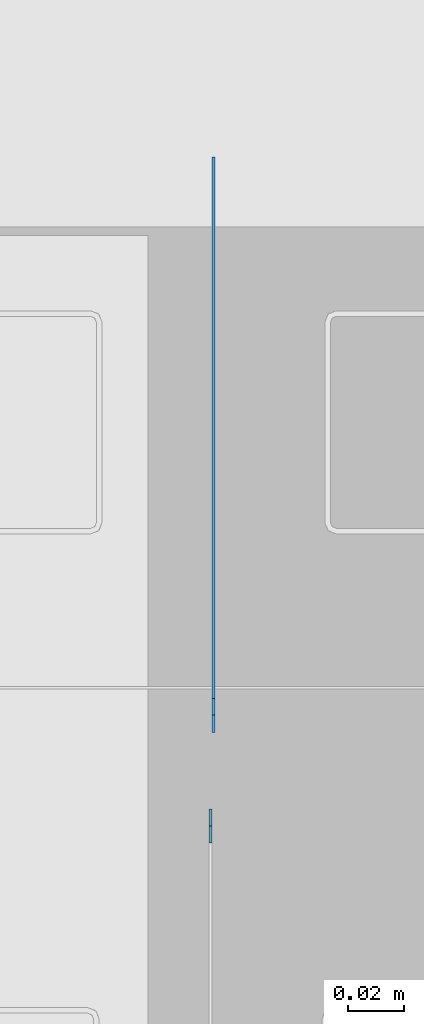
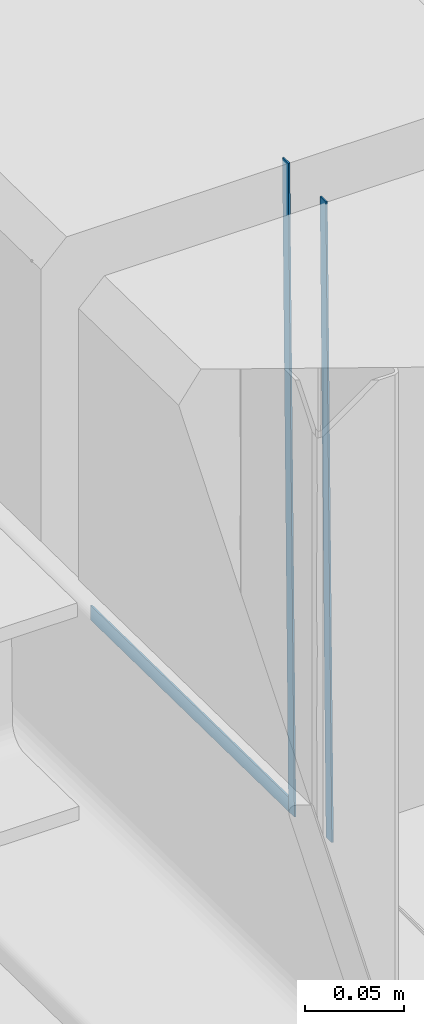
# One storey, part 27 of 186: 3 beams.
"""IFC4X3_ADD2 building model written with IfcOpenShell, lengths in millimetres."""

from ifc_helpers import new_model, si_unit, direction, frame, frame_2d, origin_with_axes, place, context, subcontext, project, spatial, rectangle, extrude, material, element, save


model = new_model("IFC4X3_ADD2")

# Units and contexts
model_context = context("Model", 3, precision=1e-05, world=origin_with_axes(), true_north=direction((0.0, 1.0)))
body_context = subcontext(model_context, "Body", "Model", "MODEL_VIEW")
ifc_project = project(units=[si_unit("LENGTHUNIT", "METRE", prefix="MILLI"), si_unit("AREAUNIT", "SQUARE_METRE"), si_unit("VOLUMEUNIT", "CUBIC_METRE"), si_unit("PLANEANGLEUNIT", "RADIAN"), si_unit("TIMEUNIT", "SECOND"), si_unit("MASSUNIT", "GRAM")], contexts=[model_context])

# Site, building, storey
site_placement = place(None, origin_with_axes())
site = spatial("IfcSite", under=ifc_project, at=site_placement, Name="Site", CompositionType="ELEMENT")
building_placement = place(site_placement, origin_with_axes())
building = spatial("IfcBuilding", under=site, at=building_placement, Name="IFC Building Story")
storey_placement = place(building_placement, frame((0.0, 0.0, 4370.0), z_axis=(0.0, 0.0, 1.0), x_axis=(1.0, 0.0, 0.0)))
storey = spatial("IfcBuildingStorey", under=building, at=storey_placement, Name="ETAGE 10 (1)", Elevation=4370.0)

# Beams
ifc_material = material(Name="STEEL/Accessory_invisible 261")
beam_1_placement = place(storey_placement, frame((48361.6886988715, -8054.825056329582, 3078.78013102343), z_axis=(-1.0, 0.0, 0.0), x_axis=(0.0, 0.01555025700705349, 0.9998790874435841)))
element("IfcBeam", 1, at=beam_1_placement, inside=storey, material=ifc_material, Name="BEK4", ObjectType="6*1", context=body_context, shape_type="SweptSolid", body=[
    extrude(rectangle(XDim=392.000000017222, YDim=6.0, at=frame_2d((0.0, 5.95523630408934e-12), x_axis=(1.0, 0.0))), origin_with_axes(), (0.0, 0.0, 1.0), 1.0),
])
beam_2_placement = place(storey_placement, frame((48361.68869887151, -7915.046270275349, 2877.10990585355), z_axis=(1.0, 0.0, 0.0), x_axis=(0.0, -0.0155341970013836, -0.9998793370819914)))
element("IfcBeam", 2, at=beam_2_placement, inside=storey, material=ifc_material, Name="BEK4", ObjectType="9*1", context=body_context, shape_type="SweptSolid", body=[
    extrude(rectangle(XDim=9.00000000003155, YDim=200.238018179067, at=frame_2d((0.0, 5.95523630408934e-12), x_axis=(1.0, 0.0))), origin_with_axes(), (0.0, 0.0, 1.0), 1.0),
])
beam_3_placement = place(storey_placement, frame((48362.68869887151, -8015.115455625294, 3074.188176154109), z_axis=(-1.0, 0.0, 0.0), x_axis=(0.0, 0.01553280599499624, 0.9998793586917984)))
element("IfcBeam", 3, at=beam_3_placement, inside=storey, material=ifc_material, Name="BEK4", ObjectType="6*1 3", context=body_context, shape_type="SweptSolid", body=[
    extrude(rectangle(XDim=400.000000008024, YDim=6.00000000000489, at=frame_2d((0.0, 5.95523630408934e-12), x_axis=(1.0, 0.0))), origin_with_axes(), (0.0, 0.0, 1.0), 1.0),
])

save(model, "model.ifc")
